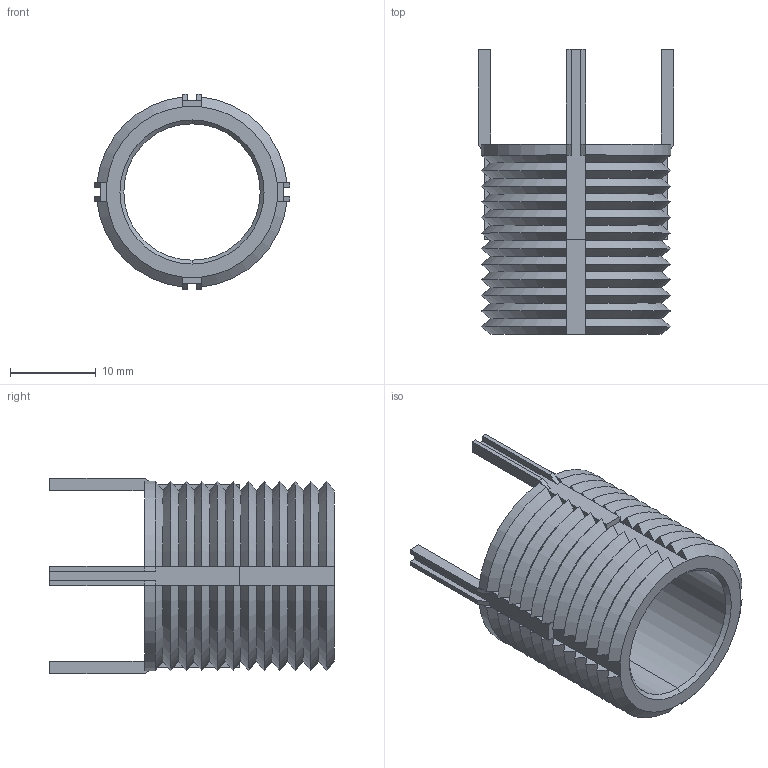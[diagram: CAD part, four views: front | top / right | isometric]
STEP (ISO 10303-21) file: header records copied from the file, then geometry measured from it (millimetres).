
FILE_DESCRIPTION (( 'STEP AP203' ), '1' );
FILE_NAME ('TR1565.66508.step', '2023-03-29T14:34:11', ( '' ), ( '' ), 'SwSTEP 2.0', 'SolidWorks 2019', '' );
FILE_SCHEMA (( 'CONFIG_CONTROL_DESIGN' ));
Length unit declared in the file: inch
Products named in the file (3): Part2_TR1565.66508; Part1_TR1565.66508; TR1565.66508
Assembly tree (5 placements, depth 2):
  TR1565.66508
    Part1_TR1565.66508
    Part2_TR1565.66508  x4
Bounding box: 22.74 x 33.15 x 22.74 mm (x, y, z)
Volume: 3445.6 mm3; surface area: 4336.7 mm2
Topology: 5 solids, 5 shells, 252 faces, 538 edges, 296 vertices
Faces by surface type: plane 150, cone 96, cylinder 6
Entity records: 6603 total; most frequent: CARTESIAN_POINT 2012, ORIENTED_EDGE 896, DIRECTION 820, EDGE_CURVE 448, AXIS2_PLACEMENT_3D 332, VERTEX_POINT 236, EDGE_LOOP 218, FACE_OUTER_BOUND 216
